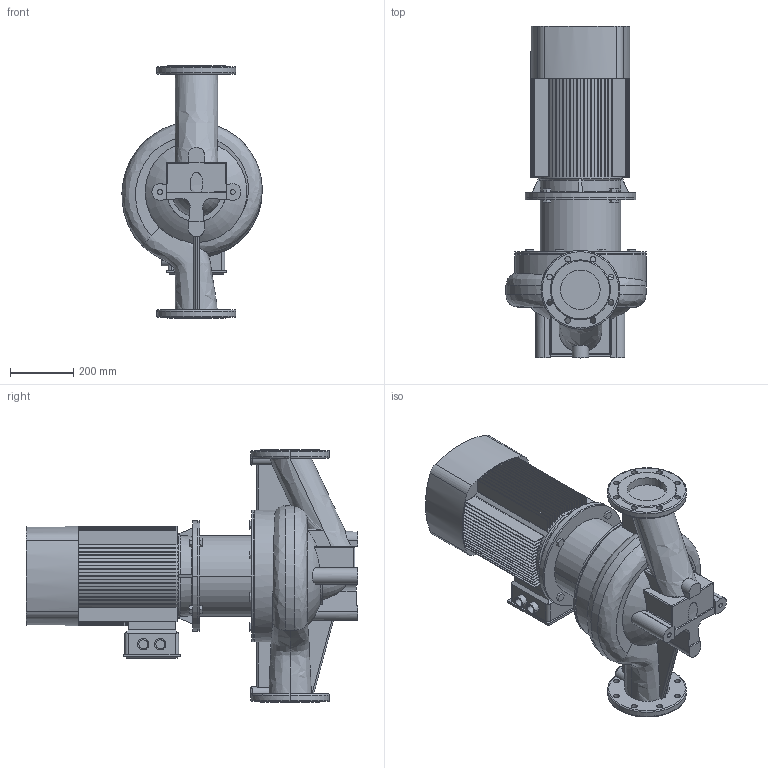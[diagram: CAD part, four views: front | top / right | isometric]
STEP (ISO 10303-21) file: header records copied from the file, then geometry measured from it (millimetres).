
FILE_DESCRIPTION (( 'STEP AP203' ), '1' );
FILE_NAME ('TD125-22G_4.STEP', '2022-05-02T19:17:55', ( '' ), ( '' ), 'SwSTEP 2.0', 'SolidWorks 2019', '' );
FILE_SCHEMA (( 'CONFIG_CONTROL_DESIGN' ));
Length unit declared in the file: millimetre
Products named in the file (4): Pr_ch 125_TD125-22G_4; Fon_125_TD125-22G_4; ED_B5_YE2-160L-4 (15); TD125-22G_4
Assembly tree (3 placements, depth 2):
  TD125-22G_4
    Pr_ch 125_TD125-22G_4
    Fon_125_TD125-22G_4
    ED_B5_YE2-160L-4 (15)
Bounding box: 444.04 x 1051 x 800 mm (x, y, z)
Volume: 80859082.1 mm3; surface area: 3697962.4 mm2
Topology: 5 solids, 7 shells, 728 faces, 1994 edges, 1318 vertices
Faces by surface type: plane 494, cylinder 160, torus 30, bspline 25, cone 17, sphere 2
Entity records: 31457 total; most frequent: CARTESIAN_POINT 12277, ORIENTED_EDGE 3984, DIRECTION 3892, EDGE_CURVE 1992, AXIS2_PLACEMENT_3D 1350, VERTEX_POINT 1318, LINE 1192, VECTOR 1192
